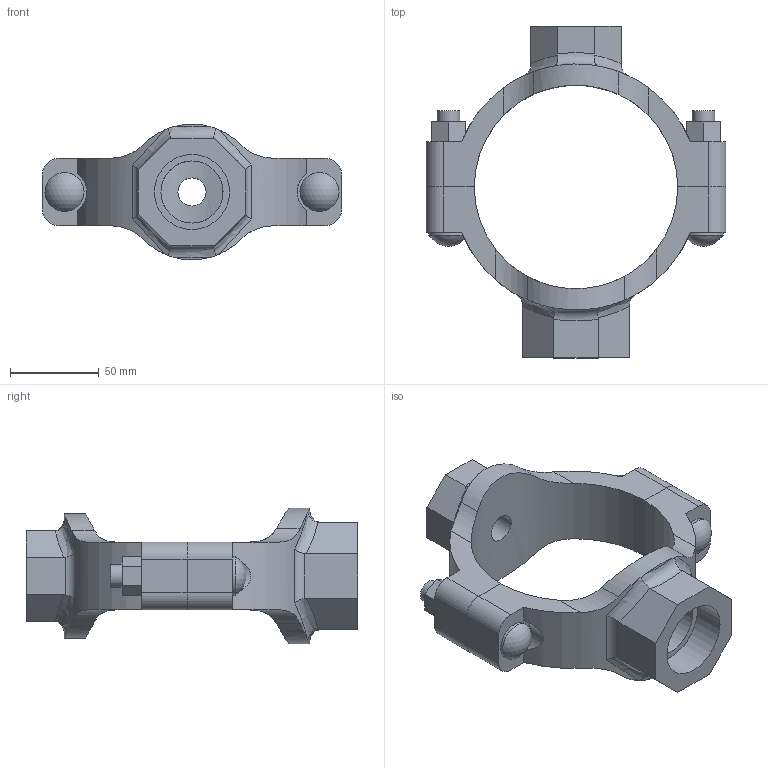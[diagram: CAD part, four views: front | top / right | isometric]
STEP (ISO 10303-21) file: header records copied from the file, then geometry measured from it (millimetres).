
FILE_DESCRIPTION(/* description */ ('VIC MECH-T BRANCH OUTLET CROSS STYLE 920N (THD)','CAx-IF Rec.Pracs.---Representation and Presentation of Product Manufacturing Information (PMI)---4.0---2014-10-13'),/* implementation_level */ '2;1');
FILE_NAME(/* name */ 'C:\Users\Vjadhav\AppData\Roaming\Autodesk\ApplicationPlugins\Back Up\Victaulic_IPS_Mechanical-Cross Outlet_Style 920N (FPT)\Victaulic_IPS_Mechanical-Cross Outlet_04.0x0.5x01.25 (100x15x32).stp',/* time_stamp */ '2020-08-06T18:57:59+05:00',/* author */ ('Vjadhav'),/* organization */ ('Victaulic'),/* preprocessor_version */ 'ST-DEVELOPER v17.2',/* originating_system */ 'Autodesk Inventor 2019',/* authorisation */ '');
FILE_SCHEMA (('AP242_MANAGED_MODEL_BASED_3D_ENGINEERING_MIM_LF { 1 0 10303 442 1 1 4 }'));
Length unit declared in the file: inch
Products named in the file (3): 920NT-04.0x0.5x01.25; 920NT-04.0x0.5; 920NT-04.0x01.25
Assembly tree (2 placements, depth 2):
  920NT-04.0x0.5x01.25
    920NT-04.0x0.5
    920NT-04.0x01.25
Bounding box: 168.4 x 186.44 x 76.18 mm (x, y, z)
Volume: 363701.3 mm3; surface area: 82476.3 mm2
Topology: 2 solids, 2 shells, 135 faces, 362 edges, 244 vertices
Faces by surface type: plane 68, cylinder 53, bspline 8, torus 4, sphere 2
Full cylindrical faces by diameter (mm): 12.7 x4, 15.799 x1, 21.336 x1, 21.982 x2, 34.925 x1, 42.164 x1
Entity records: 5381 total; most frequent: CARTESIAN_POINT 1790, ORIENTED_EDGE 724, DIRECTION 654, EDGE_CURVE 362, VERTEX_POINT 244, AXIS2_PLACEMENT_3D 234, LINE 186, VECTOR 186
